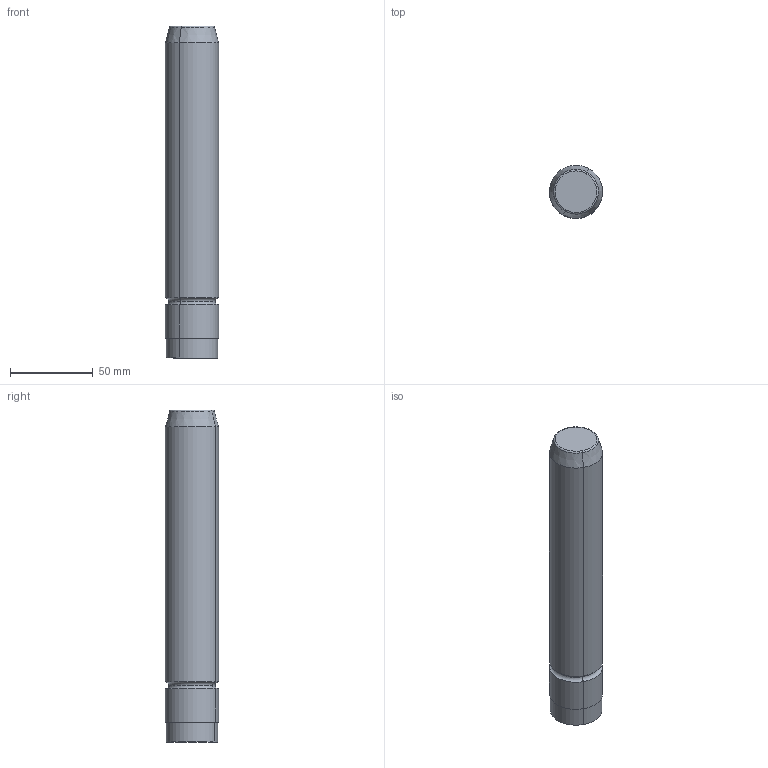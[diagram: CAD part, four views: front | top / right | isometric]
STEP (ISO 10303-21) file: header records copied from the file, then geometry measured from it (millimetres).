
FILE_DESCRIPTION(('CATIA V5 STEP Exchange'),'2;1');
FILE_NAME('C:\Users\Utente\Desktop\IO LAVORO\3D X SITO CF\X SITO\M104\M104-32x200.stp','2020-12-26T21:33:12+00:00',('none'),('none'),'CATIA Version 5 Release 20 GA (IN-10)','CATIA V5 STEP AP203','none');
FILE_SCHEMA(('CONFIG_CONTROL_DESIGN'));
Length unit declared in the file: millimetre
Products named in the file (1): M104-32x200
Bounding box: 31.99 x 31.99 x 200 mm (x, y, z)
Volume: 158317.1 mm3; surface area: 21544.9 mm2
Topology: 1 solids, 1 shells, 17 faces, 32 edges, 18 vertices
Faces by surface type: cylinder 6, torus 6, plane 3, cone 2
Entity records: 438 total; most frequent: CARTESIAN_POINT 66, ORIENTED_EDGE 64, DIRECTION 62, AXIS2_PLACEMENT_3D 40, EDGE_CURVE 32, CIRCLE 24, EDGE_LOOP 18, VERTEX_POINT 18
